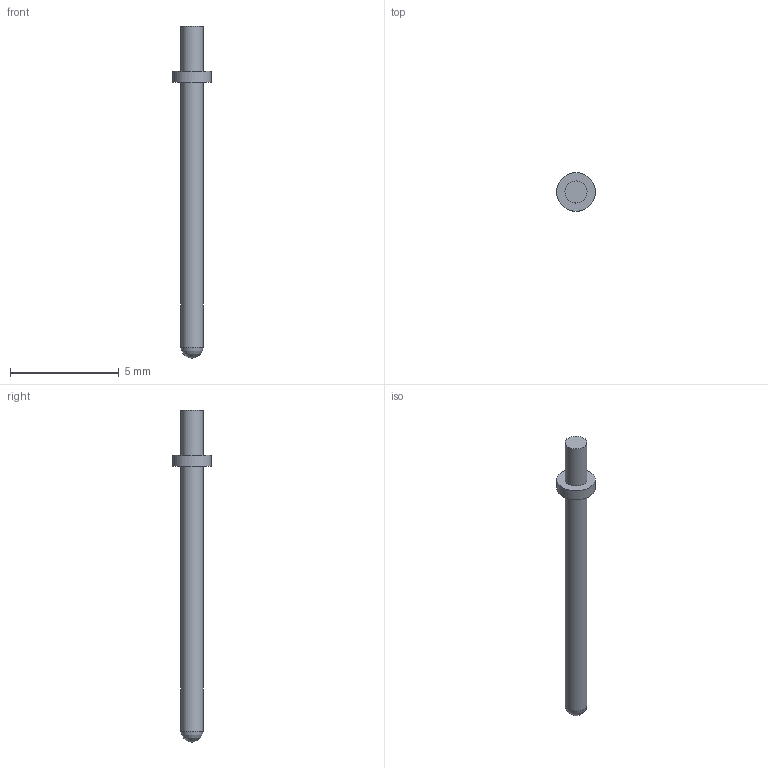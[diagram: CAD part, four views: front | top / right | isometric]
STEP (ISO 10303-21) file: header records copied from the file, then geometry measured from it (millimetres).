
FILE_DESCRIPTION(('FreeCAD Model'),'2;1');
FILE_NAME('Open CASCADE Shape Model','2025-04-11T12:34:55',('Author'),( ''),'Open CASCADE STEP processor 7.6','FreeCAD','Unknown');
FILE_SCHEMA(('AP242_MANAGED_MODEL_BASED_3D_ENGINEERING_MIM_LF. {1 0 10303 442 1 1 4 }'));
Length unit declared in the file: millimetre
Products named in the file (1): Fillet
Bounding box: 1.78 x 1.78 x 15.29 mm (x, y, z)
Volume: 13.1 mm3; surface area: 54.2 mm2
Topology: 1 solids, 1 shells, 8 faces, 11 edges, 7 vertices
Faces by surface type: plane 4, cylinder 3, revolution 1
Full cylindrical faces by diameter (mm): 1.016 x2, 1.778 x1
Entity records: 254 total; most frequent: DIRECTION 36, CARTESIAN_POINT 34, ORIENTED_EDGE 22, AXIS2_PLACEMENT_3D 16, EDGE_CURVE 11, FACE_BOUND 10, EDGE_LOOP 10, ADVANCED_FACE 8
